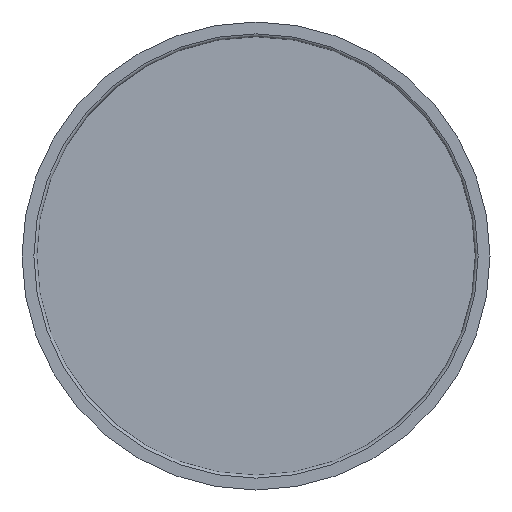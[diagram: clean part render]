
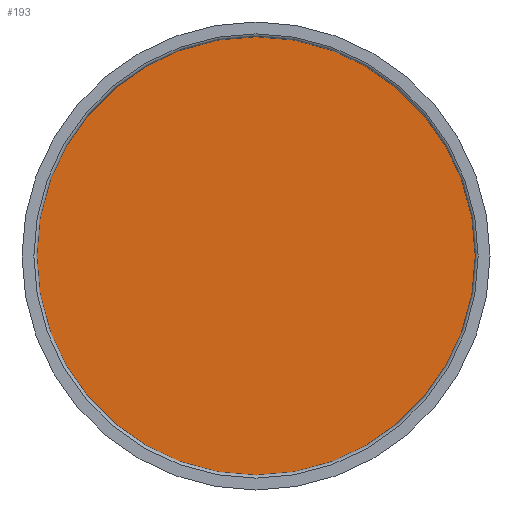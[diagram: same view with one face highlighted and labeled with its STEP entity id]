
A CAD part, front view. The second image highlights one B-rep face of the part: STEP entity #193.
In plain terms, the highlighted planar face has unit normal (0, -1, 0).
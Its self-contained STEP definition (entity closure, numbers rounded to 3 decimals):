
#193 = ADVANCED_FACE( '', ( #413 ), #414, .T. );
#413 = FACE_OUTER_BOUND( '', #651, .T. );
#414 = PLANE( '', #652 );
#651 = EDGE_LOOP( '', ( #1275 ) );
#652 = AXIS2_PLACEMENT_3D( '', #1276, #1277, #1278 );
#1275 = ORIENTED_EDGE( '', *, *, #1648, .T. );
#1276 = CARTESIAN_POINT( '', ( -37.5, 4.7, 0. ) );
#1277 = DIRECTION( '', ( 0., -1., 0. ) );
#1278 = DIRECTION( '', ( 1., 0., 0. ) );
#1648 = EDGE_CURVE( '', #1966, #1966, #1967, .T. );
#1966 = VERTEX_POINT( '', #2858 );
#1967 = CIRCLE( '', #2859, 37.5 );
#2858 = CARTESIAN_POINT( '', ( 37.5, 4.7, 0. ) );
#2859 = AXIS2_PLACEMENT_3D( '', #2973, #2974, #2975 );
#2973 = CARTESIAN_POINT( '', ( 0., 4.7, 0. ) );
#2974 = DIRECTION( '', ( 0., -1., 0. ) );
#2975 = DIRECTION( '', ( 1., 0., 0. ) );
